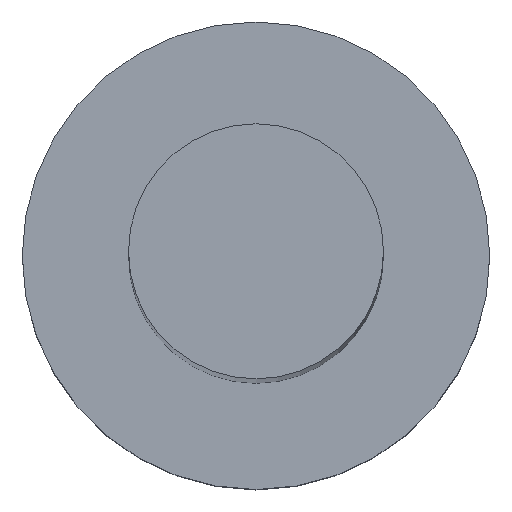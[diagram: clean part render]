
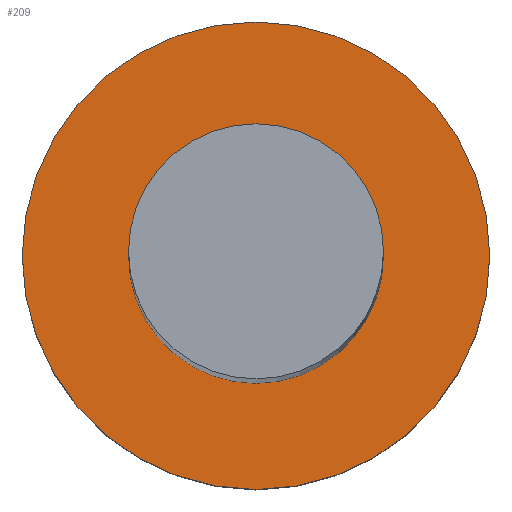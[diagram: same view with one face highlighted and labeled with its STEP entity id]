
A CAD part, top view. The second image highlights one B-rep face of the part: STEP entity #209.
In plain terms, the highlighted planar face has unit normal (0, 0, 1).
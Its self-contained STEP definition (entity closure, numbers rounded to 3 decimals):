
#8 = EDGE_LOOP ( 'NONE', ( #156, #123 ) ) ;
#10 = VERTEX_POINT ( 'NONE', #180 ) ;
#11 = CIRCLE ( 'NONE', #66, 1.5 ) ;
#31 = DIRECTION ( 'NONE',  ( 1., 0., 0. ) ) ;
#32 = FACE_BOUND ( 'NONE', #78, .T. ) ;
#34 = EDGE_CURVE ( 'NONE', #219, #255, #11, .T. ) ;
#38 = VERTEX_POINT ( 'NONE', #166 ) ;
#44 = ORIENTED_EDGE ( 'NONE', *, *, #34, .F. ) ;
#51 = AXIS2_PLACEMENT_3D ( 'NONE', #251, #130, #31 ) ;
#63 = DIRECTION ( 'NONE',  ( 1., 0., 0. ) ) ;
#65 = DIRECTION ( 'NONE',  ( 1., 0., 0. ) ) ;
#66 = AXIS2_PLACEMENT_3D ( 'NONE', #144, #208, #63 ) ;
#77 = PLANE ( 'NONE',  #91 ) ;
#78 = EDGE_LOOP ( 'NONE', ( #44, #240 ) ) ;
#91 = AXIS2_PLACEMENT_3D ( 'NONE', #173, #96, #109 ) ;
#94 = CARTESIAN_POINT ( 'NONE',  ( 1.5, 0., 0. ) ) ;
#96 = DIRECTION ( 'NONE',  ( 0., 0., 1. ) ) ;
#108 = CARTESIAN_POINT ( 'NONE',  ( -1.5, 0., 0. ) ) ;
#109 = DIRECTION ( 'NONE',  ( 1., 0., 0. ) ) ;
#113 = CIRCLE ( 'NONE', #128, 2.75 ) ;
#114 = AXIS2_PLACEMENT_3D ( 'NONE', #168, #151, #250 ) ;
#123 = ORIENTED_EDGE ( 'NONE', *, *, #249, .T. ) ;
#128 = AXIS2_PLACEMENT_3D ( 'NONE', #183, #243, #65 ) ;
#130 = DIRECTION ( 'NONE',  ( 0., 0., 1. ) ) ;
#133 = EDGE_CURVE ( 'NONE', #38, #10, #113, .T. ) ;
#144 = CARTESIAN_POINT ( 'NONE',  ( 0., 0., 0. ) ) ;
#149 = CIRCLE ( 'NONE', #114, 2.75 ) ;
#151 = DIRECTION ( 'NONE',  ( 0., 0., 1. ) ) ;
#156 = ORIENTED_EDGE ( 'NONE', *, *, #133, .T. ) ;
#166 = CARTESIAN_POINT ( 'NONE',  ( -2.75, 0., 0. ) ) ;
#168 = CARTESIAN_POINT ( 'NONE',  ( 0., 0., 0. ) ) ;
#173 = CARTESIAN_POINT ( 'NONE',  ( 0., 0., 0. ) ) ;
#180 = CARTESIAN_POINT ( 'NONE',  ( 2.75, 0., 0. ) ) ;
#183 = CARTESIAN_POINT ( 'NONE',  ( 0., 0., 0. ) ) ;
#189 = CIRCLE ( 'NONE', #51, 1.5 ) ;
#200 = EDGE_CURVE ( 'NONE', #255, #219, #189, .T. ) ;
#208 = DIRECTION ( 'NONE',  ( 0., 0., 1. ) ) ;
#209 = ADVANCED_FACE ( 'NONE', ( #32, #231 ), #77, .T. ) ;
#219 = VERTEX_POINT ( 'NONE', #108 ) ;
#231 = FACE_OUTER_BOUND ( 'NONE', #8, .T. ) ;
#240 = ORIENTED_EDGE ( 'NONE', *, *, #200, .F. ) ;
#243 = DIRECTION ( 'NONE',  ( 0., 0., 1. ) ) ;
#249 = EDGE_CURVE ( 'NONE', #10, #38, #149, .T. ) ;
#250 = DIRECTION ( 'NONE',  ( 1., 0., 0. ) ) ;
#251 = CARTESIAN_POINT ( 'NONE',  ( 0., 0., 0. ) ) ;
#255 = VERTEX_POINT ( 'NONE', #94 ) ;
